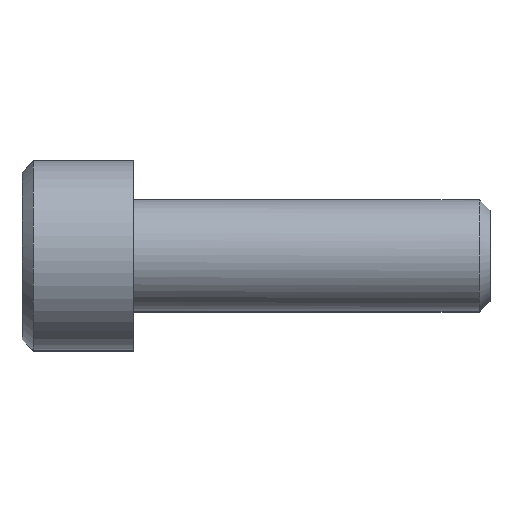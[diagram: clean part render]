
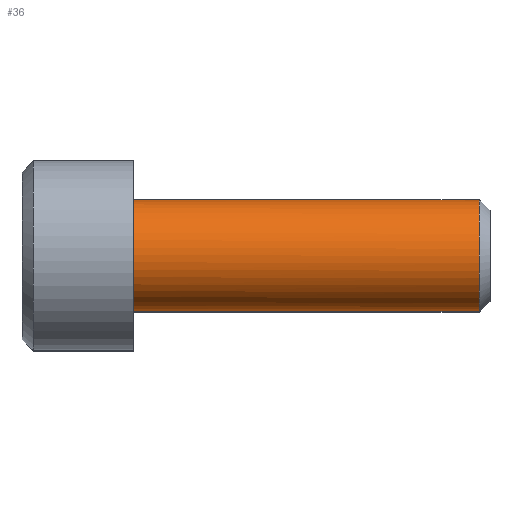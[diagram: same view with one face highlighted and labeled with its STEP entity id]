
A CAD part, top view. The second image highlights one B-rep face of the part: STEP entity #36.
In plain terms, the highlighted free-form (B-spline) face has degree [2, 1] with [9, 2] control points.
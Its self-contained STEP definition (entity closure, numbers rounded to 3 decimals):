
#36=ADVANCED_FACE('',(#61),#755,.T.);
#61=FACE_OUTER_BOUND('',#86,.T.);
#86=EDGE_LOOP('',(#119,#120,#121,#122));
#119=ORIENTED_EDGE('',*,*,#532,.T.);
#120=ORIENTED_EDGE('',*,*,#533,.T.);
#121=ORIENTED_EDGE('',*,*,#534,.T.);
#122=ORIENTED_EDGE('',*,*,#535,.T.);
#222=(
BOUNDED_CURVE()
B_SPLINE_CURVE(2,(#1121,#1122,#1123,#1124,#1125),.UNSPECIFIED.,.F.,.F.)
B_SPLINE_CURVE_WITH_KNOTS((3,2,3),(0.,3.927,7.854),
 .UNSPECIFIED.)
CURVE()
GEOMETRIC_REPRESENTATION_ITEM()
RATIONAL_B_SPLINE_CURVE((1.,0.707,1.,0.707,1.))
REPRESENTATION_ITEM('')
);
#223=(
BOUNDED_CURVE()
B_SPLINE_CURVE(2,(#1132,#1133,#1134,#1135,#1136),.UNSPECIFIED.,.F.,.F.)
B_SPLINE_CURVE_WITH_KNOTS((3,2,3),(-7.854,-3.927,0.),
 .UNSPECIFIED.)
CURVE()
GEOMETRIC_REPRESENTATION_ITEM()
RATIONAL_B_SPLINE_CURVE((1.,0.707,1.,0.707,1.))
REPRESENTATION_ITEM('')
);
#250=(
BOUNDED_CURVE()
B_SPLINE_CURVE(2,(#1425,#1426,#1427,#1428,#1429),.UNSPECIFIED.,.F.,.F.)
B_SPLINE_CURVE_WITH_KNOTS((3,2,3),(-7.854,-3.927,0.),
 .UNSPECIFIED.)
CURVE()
GEOMETRIC_REPRESENTATION_ITEM()
RATIONAL_B_SPLINE_CURVE((1.,0.707,1.,0.707,1.))
REPRESENTATION_ITEM('')
);
#263=PCURVE('',#755,#371);
#264=PCURVE('',#755,#372);
#265=PCURVE('',#755,#373);
#266=PCURVE('',#755,#374);
#270=PCURVE('',#756,#378);
#339=PCURVE('',#760,#447);
#341=PCURVE('',#760,#449);
#346=PCURVE('',#751,#454);
#371=DEFINITIONAL_REPRESENTATION('',(#592),#1481);
#372=DEFINITIONAL_REPRESENTATION('',(#593),#1481);
#373=DEFINITIONAL_REPRESENTATION('',(#595),#1481);
#374=DEFINITIONAL_REPRESENTATION('',(#596),#1481);
#378=DEFINITIONAL_REPRESENTATION('',(#602),#1481);
#447=DEFINITIONAL_REPRESENTATION('',(#687),#1481);
#449=DEFINITIONAL_REPRESENTATION('',(#689),#1481);
#454=DEFINITIONAL_REPRESENTATION('',(#250),#1481);
#478=SURFACE_CURVE('',#591,(#263,#339),.PCURVE_S1.);
#479=SURFACE_CURVE('',#222,(#264,#270),.PCURVE_S1.);
#480=SURFACE_CURVE('',#594,(#265,#341),.PCURVE_S1.);
#481=SURFACE_CURVE('',#223,(#266,#346),.PCURVE_S1.);
#532=EDGE_CURVE('',#711,#712,#478,.T.);
#533=EDGE_CURVE('',#712,#713,#479,.T.);
#534=EDGE_CURVE('',#713,#714,#480,.T.);
#535=EDGE_CURVE('',#714,#711,#481,.T.);
#591=B_SPLINE_CURVE_WITH_KNOTS('',1,(#1117,#1118),.UNSPECIFIED.,.F.,.F.,
(2,2),(-15.51,0.),.UNSPECIFIED.);
#592=B_SPLINE_CURVE_WITH_KNOTS('',1,(#1119,#1120),.UNSPECIFIED.,.F.,.F.,
(2,2),(-15.51,0.),.UNSPECIFIED.);
#593=B_SPLINE_CURVE_WITH_KNOTS('',1,(#1126,#1127),.UNSPECIFIED.,.F.,.F.,
(2,2),(0.,7.854),.UNSPECIFIED.);
#594=B_SPLINE_CURVE_WITH_KNOTS('',1,(#1128,#1129),.UNSPECIFIED.,.F.,.F.,
(2,2),(-15.51,0.),.UNSPECIFIED.);
#595=B_SPLINE_CURVE_WITH_KNOTS('',1,(#1130,#1131),.UNSPECIFIED.,.F.,.F.,
(2,2),(-15.51,0.),.UNSPECIFIED.);
#596=B_SPLINE_CURVE_WITH_KNOTS('',1,(#1137,#1138),.UNSPECIFIED.,.F.,.F.,
(2,2),(-7.854,0.),.UNSPECIFIED.);
#602=B_SPLINE_CURVE_WITH_KNOTS('',1,(#1154,#1155),.UNSPECIFIED.,.F.,.F.,
(2,2),(0.,7.854),.UNSPECIFIED.);
#687=B_SPLINE_CURVE_WITH_KNOTS('',1,(#1392,#1393),.UNSPECIFIED.,.F.,.F.,
(2,2),(-15.51,0.),.UNSPECIFIED.);
#689=B_SPLINE_CURVE_WITH_KNOTS('',1,(#1401,#1402),.UNSPECIFIED.,.F.,.F.,
(2,2),(-15.51,0.),.UNSPECIFIED.);
#711=VERTEX_POINT('',#1051);
#712=VERTEX_POINT('',#1052);
#713=VERTEX_POINT('',#1053);
#714=VERTEX_POINT('',#1054);
#751=PLANE('',#818);
#755=(
BOUNDED_SURFACE()
B_SPLINE_SURFACE(2,1,((#886,#887),(#888,#889),(#890,#891),(#892,#893),(#894,
#895),(#896,#897),(#898,#899),(#900,#901),(#902,#903)),.UNSPECIFIED.,.T.,
 .F.,.F.)
B_SPLINE_SURFACE_WITH_KNOTS((3,2,2,2,3),(2,2),(0.,1.571,3.142,
4.712,6.283),(0.,18.614),.UNSPECIFIED.)
GEOMETRIC_REPRESENTATION_ITEM()
RATIONAL_B_SPLINE_SURFACE(((1.,1.),(0.707,0.707),
(1.,1.),(0.707,0.707),(1.,1.),(0.707,
0.707),(1.,1.),(0.707,0.707),(1.,1.)))
REPRESENTATION_ITEM('')
SURFACE()
);
#756=(
BOUNDED_SURFACE()
B_SPLINE_SURFACE(2,1,((#904,#905),(#906,#907),(#908,#909),(#910,#911),(#912,
#913),(#914,#915),(#916,#917),(#918,#919),(#920,#921)),.UNSPECIFIED.,.T.,
 .F.,.F.)
B_SPLINE_SURFACE_WITH_KNOTS((3,2,2,2,3),(2,2),(0.,1.571,3.142,
4.712,6.283),(0.,3.891),.UNSPECIFIED.)
GEOMETRIC_REPRESENTATION_ITEM()
RATIONAL_B_SPLINE_SURFACE(((1.,1.),(0.707,0.707),
(1.,1.),(0.707,0.707),(1.,1.),(0.707,
0.707),(1.,1.),(0.707,0.707),(1.,1.)))
REPRESENTATION_ITEM('')
SURFACE()
);
#760=(
BOUNDED_SURFACE()
B_SPLINE_SURFACE(2,1,((#989,#990),(#991,#992),(#993,#994),(#995,#996),(#997,
#998),(#999,#1000),(#1001,#1002),(#1003,#1004),(#1005,#1006)),
 .UNSPECIFIED.,.T.,.F.,.F.)
B_SPLINE_SURFACE_WITH_KNOTS((3,2,2,2,3),(2,2),(0.,1.571,3.142,
4.712,6.283),(0.,18.614),.UNSPECIFIED.)
GEOMETRIC_REPRESENTATION_ITEM()
RATIONAL_B_SPLINE_SURFACE(((1.,1.),(0.707,0.707),
(1.,1.),(0.707,0.707),(1.,1.),(0.707,
0.707),(1.,1.),(0.707,0.707),(1.,1.)))
REPRESENTATION_ITEM('')
SURFACE()
);
#818=AXIS2_PLACEMENT_3D('',#1007,#840,$);
#840=DIRECTION('',(1.,0.,0.));
#886=CARTESIAN_POINT('',(-1.552,-2.5,0.));
#887=CARTESIAN_POINT('',(17.062,-2.5,0.));
#888=CARTESIAN_POINT('',(-1.552,-2.5,-2.5));
#889=CARTESIAN_POINT('',(17.062,-2.5,-2.5));
#890=CARTESIAN_POINT('',(-1.552,0.,-2.5));
#891=CARTESIAN_POINT('',(17.062,0.,-2.5));
#892=CARTESIAN_POINT('',(-1.552,2.5,-2.5));
#893=CARTESIAN_POINT('',(17.062,2.5,-2.5));
#894=CARTESIAN_POINT('',(-1.552,2.5,0.));
#895=CARTESIAN_POINT('',(17.062,2.5,0.));
#896=CARTESIAN_POINT('',(-1.552,2.5,2.5));
#897=CARTESIAN_POINT('',(17.062,2.5,2.5));
#898=CARTESIAN_POINT('',(-1.552,0.,2.5));
#899=CARTESIAN_POINT('',(17.062,0.,2.5));
#900=CARTESIAN_POINT('',(-1.552,-2.5,2.5));
#901=CARTESIAN_POINT('',(17.062,-2.5,2.5));
#902=CARTESIAN_POINT('',(-1.552,-2.5,0.));
#903=CARTESIAN_POINT('',(17.062,-2.5,0.));
#904=CARTESIAN_POINT('',(18.01,0.,0.));
#905=CARTESIAN_POINT('',(15.258,-2.751,0.));
#906=CARTESIAN_POINT('',(18.01,0.,0.));
#907=CARTESIAN_POINT('',(15.258,-2.751,2.751));
#908=CARTESIAN_POINT('',(18.01,0.,0.));
#909=CARTESIAN_POINT('',(15.258,0.,2.751));
#910=CARTESIAN_POINT('',(18.01,0.,0.));
#911=CARTESIAN_POINT('',(15.258,2.751,2.751));
#912=CARTESIAN_POINT('',(18.01,0.,0.));
#913=CARTESIAN_POINT('',(15.258,2.751,0.));
#914=CARTESIAN_POINT('',(18.01,0.,0.));
#915=CARTESIAN_POINT('',(15.258,2.751,-2.751));
#916=CARTESIAN_POINT('',(18.01,0.,0.));
#917=CARTESIAN_POINT('',(15.258,0.,-2.751));
#918=CARTESIAN_POINT('',(18.01,0.,0.));
#919=CARTESIAN_POINT('',(15.258,-2.751,-2.751));
#920=CARTESIAN_POINT('',(18.01,0.,0.));
#921=CARTESIAN_POINT('',(15.258,-2.751,0.));
#989=CARTESIAN_POINT('',(-1.552,2.5,0.));
#990=CARTESIAN_POINT('',(17.062,2.5,0.));
#991=CARTESIAN_POINT('',(-1.552,2.5,2.5));
#992=CARTESIAN_POINT('',(17.062,2.5,2.5));
#993=CARTESIAN_POINT('',(-1.552,0.,2.5));
#994=CARTESIAN_POINT('',(17.062,0.,2.5));
#995=CARTESIAN_POINT('',(-1.552,-2.5,2.5));
#996=CARTESIAN_POINT('',(17.062,-2.5,2.5));
#997=CARTESIAN_POINT('',(-1.552,-2.5,0.));
#998=CARTESIAN_POINT('',(17.062,-2.5,0.));
#999=CARTESIAN_POINT('',(-1.552,-2.5,-2.5));
#1000=CARTESIAN_POINT('',(17.062,-2.5,-2.5));
#1001=CARTESIAN_POINT('',(-1.552,0.,-2.5));
#1002=CARTESIAN_POINT('',(17.062,0.,-2.5));
#1003=CARTESIAN_POINT('',(-1.552,2.5,-2.5));
#1004=CARTESIAN_POINT('',(17.062,2.5,-2.5));
#1005=CARTESIAN_POINT('',(-1.552,2.5,0.));
#1006=CARTESIAN_POINT('',(17.062,2.5,0.));
#1007=CARTESIAN_POINT('',(0.,-5.101,5.101));
#1051=CARTESIAN_POINT('',(0.,0.,2.5));
#1052=CARTESIAN_POINT('',(15.51,0.,2.5));
#1053=CARTESIAN_POINT('',(15.51,0.,-2.5));
#1054=CARTESIAN_POINT('',(0.,0.,-2.5));
#1117=CARTESIAN_POINT('',(0.,0.,2.5));
#1118=CARTESIAN_POINT('',(15.51,0.,2.5));
#1119=CARTESIAN_POINT('',(4.712,1.552));
#1120=CARTESIAN_POINT('',(4.712,17.062));
#1121=CARTESIAN_POINT('',(15.51,0.,2.5));
#1122=CARTESIAN_POINT('',(15.51,2.5,2.5));
#1123=CARTESIAN_POINT('',(15.51,2.5,0.));
#1124=CARTESIAN_POINT('',(15.51,2.5,-2.5));
#1125=CARTESIAN_POINT('',(15.51,0.,-2.5));
#1126=CARTESIAN_POINT('',(4.712,17.062));
#1127=CARTESIAN_POINT('',(1.571,17.062));
#1128=CARTESIAN_POINT('',(15.51,0.,-2.5));
#1129=CARTESIAN_POINT('',(0.,0.,-2.5));
#1130=CARTESIAN_POINT('',(1.571,17.062));
#1131=CARTESIAN_POINT('',(1.571,1.552));
#1132=CARTESIAN_POINT('',(0.,0.,-2.5));
#1133=CARTESIAN_POINT('',(0.,2.5,-2.5));
#1134=CARTESIAN_POINT('',(0.,2.5,0.));
#1135=CARTESIAN_POINT('',(0.,2.5,2.5));
#1136=CARTESIAN_POINT('',(0.,0.,2.5));
#1137=CARTESIAN_POINT('',(1.571,1.552));
#1138=CARTESIAN_POINT('',(4.712,1.552));
#1154=CARTESIAN_POINT('',(1.571,3.536));
#1155=CARTESIAN_POINT('',(4.712,3.536));
#1392=CARTESIAN_POINT('',(1.571,1.552));
#1393=CARTESIAN_POINT('',(1.571,17.062));
#1401=CARTESIAN_POINT('',(4.712,17.062));
#1402=CARTESIAN_POINT('',(4.712,1.552));
#1425=CARTESIAN_POINT('',(5.875,0.));
#1426=CARTESIAN_POINT('',(5.875,2.5));
#1427=CARTESIAN_POINT('',(3.375,2.5));
#1428=CARTESIAN_POINT('',(0.875,2.5));
#1429=CARTESIAN_POINT('',(0.875,0.));
#1481=(
GEOMETRIC_REPRESENTATION_CONTEXT(2)
PARAMETRIC_REPRESENTATION_CONTEXT()
REPRESENTATION_CONTEXT('pspace','')
);
